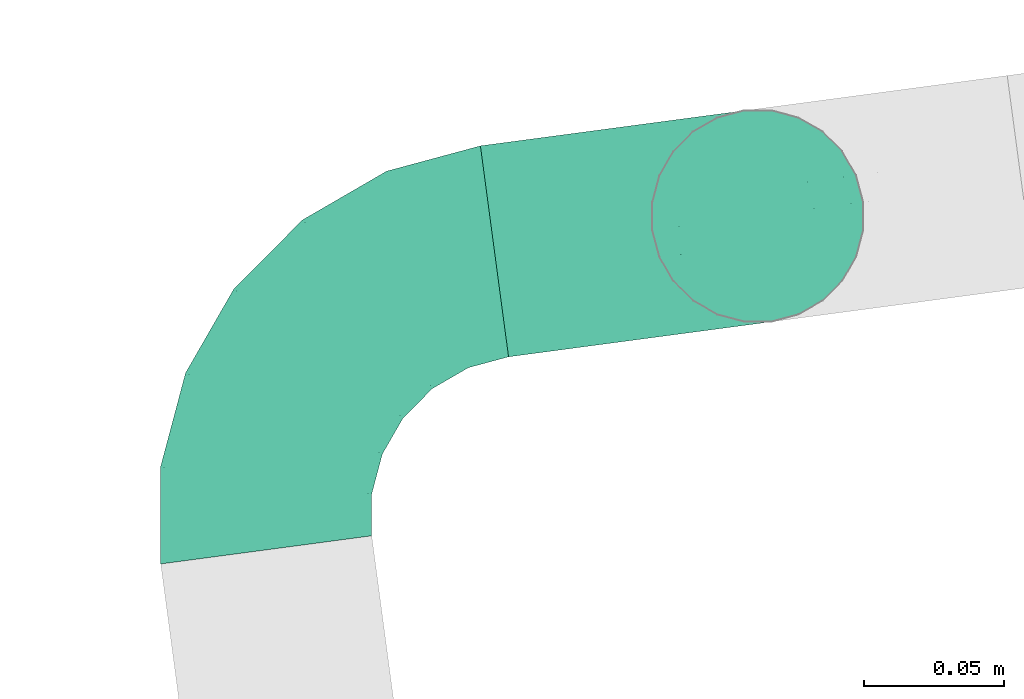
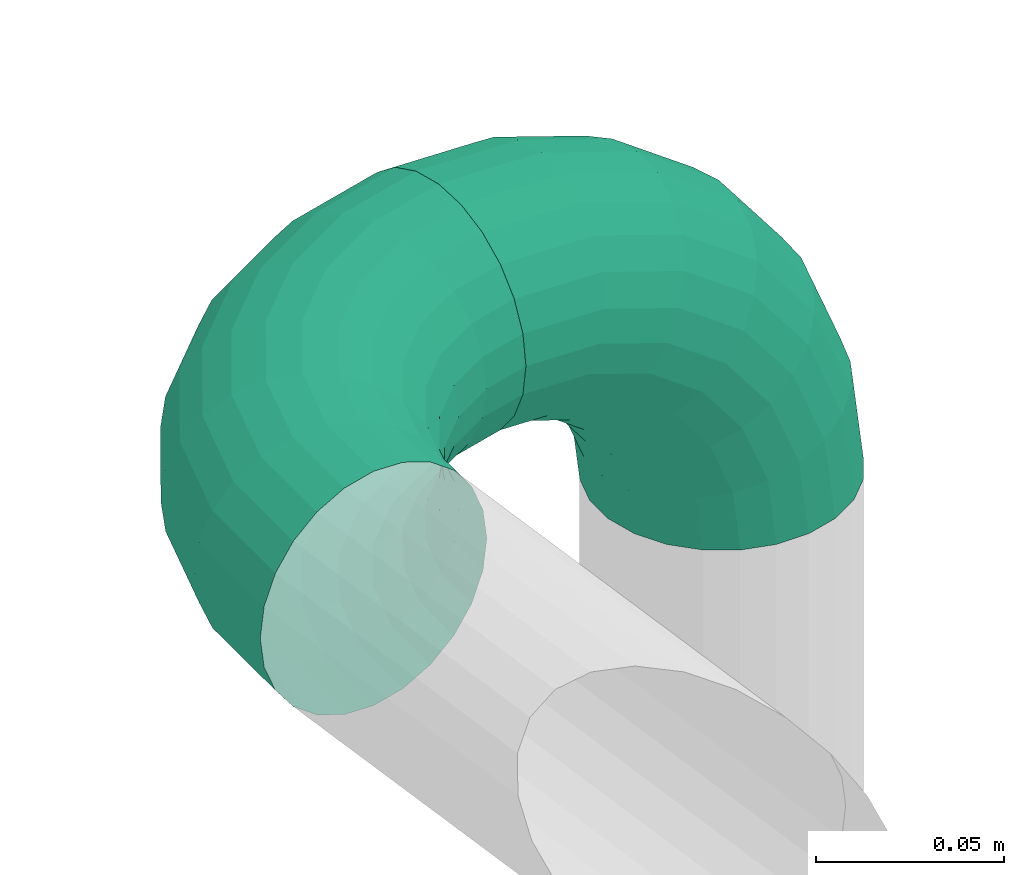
# One storey, part 336 of 374: 2 flow segments.
"""IFC2X3 building model written with IfcOpenShell, lengths in metres."""

from ifc_helpers import new_model, si_unit, direction, origin, place, context, subcontext, project, spatial, open_shell, surface_model, source, transform, mapped, element, save


model = new_model("IFC2X3")

# Units and contexts
model_context = context("Model", 3, precision=1e-05, world=origin(), true_north=direction((-0.4480736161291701, 0.8939966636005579)))
body_context = subcontext(model_context, "Body", "Model", "MODEL_VIEW")
ifc_project = project(units=[si_unit("LENGTHUNIT", "METRE"), si_unit("AREAUNIT", "SQUARE_METRE"), si_unit("VOLUMEUNIT", "CUBIC_METRE"), si_unit("PLANEANGLEUNIT", "RADIAN"), si_unit("THERMODYNAMICTEMPERATUREUNIT", "KELVIN"), si_unit("MASSUNIT", "GRAM", prefix="KILO"), si_unit("TIMEUNIT", "SECOND")], contexts=[model_context])

# Site, building, storey
site_placement = place(None, origin())
site = spatial("IfcSite", under=ifc_project, at=site_placement, Name="Site 1", CompositionType="ELEMENT")
building_placement = place(site_placement, origin())
building = spatial("IfcBuilding", under=site, at=building_placement, Name="Undefined", CompositionType="ELEMENT")
storey_placement = place(building_placement, origin())
storey = spatial("IfcBuildingStorey", under=building, at=storey_placement, Name="Rez de chauss\x8ee", CompositionType="ELEMENT", Elevation=0.0)

# Flow segments
shared_shape_1 = source(origin(), body_context, "Body", "SurfaceModel", [
    surface_model("IfcFaceBasedSurfaceModel", [(0.034733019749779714, -1.776356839e-15, 1.776356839e-15), (0.03456378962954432, 0.009931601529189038, 5.329070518e-15), (0.00016923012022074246, 0.009931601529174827, -1.33226763e-15), (0.0, 0.0, 0.0), (-0.033053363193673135, 0.011083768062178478, -0.008827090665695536), (-0.03354952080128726, 0.001163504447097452, -0.00891395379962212), (-0.06283992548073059, 0.0133095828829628, -0.025879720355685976), (-0.06362919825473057, 0.003411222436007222, -0.02613439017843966), (-0.08716055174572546, 0.01645736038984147, -0.04999578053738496), (-0.08818915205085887, 0.0065899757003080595, -0.05048776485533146), (-0.10435783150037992, 0.02031258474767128, -0.07953180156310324), (-0.10555566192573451, 0.010483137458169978, -0.08031443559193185), (-0.11325979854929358, 0.024612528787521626, -0.11247495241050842), (-0.11454522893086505, 0.01482539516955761, -0.11358176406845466), (0.034067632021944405, 0.01951912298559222, -0.0025492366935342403), (0.0006653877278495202, 0.0195191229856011, -0.002549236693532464), (-0.031598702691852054, 0.02063804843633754, -0.011121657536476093), (-0.06052589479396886, 0.022799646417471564, -0.027682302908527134), (-0.08414484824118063, 0.025856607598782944, -0.05110259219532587), (-0.10084597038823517, 0.029600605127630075, -0.07978647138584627), (-0.10949110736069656, 0.03377649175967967, -0.11177918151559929), (0.03327835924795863, 0.02810919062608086, -0.00747398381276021), (0.001454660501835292, 0.028109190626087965, -0.0074739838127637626), (-0.029284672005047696, 0.02917523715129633, -0.015641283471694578), (-0.05684480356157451, 0.031234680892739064, -0.03141929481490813), (-0.07934755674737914, 0.034147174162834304, -0.05373277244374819), (-0.09525940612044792, 0.03771423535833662, -0.08106108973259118), (-0.10349598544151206, 0.04169277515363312, -0.11154186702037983), (0.0322497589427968, 0.035116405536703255, -0.014438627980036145), (0.002483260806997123, 0.035116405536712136, -0.014438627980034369), (-0.02626896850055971, 0.036113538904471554, -0.02207796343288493), (-0.05204751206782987, 0.03803985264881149, -0.03683602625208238), (-0.07309560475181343, 0.040764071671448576, -0.05770707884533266), (-0.08797885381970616, 0.04410054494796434, -0.08326879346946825), (-0.0956829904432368, 0.04782189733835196, -0.11177918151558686), (0.031051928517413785, 0.04006323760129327, -0.0229685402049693), (0.0036810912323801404, 0.04006323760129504, -0.022968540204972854), (-0.022757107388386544, 0.04098011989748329, -0.029993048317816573), (-0.04646094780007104, 0.04275140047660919, -0.04356335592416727), (-0.06581505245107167, 0.045256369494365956, -0.06275466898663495), (-0.07950047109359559, 0.04832431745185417, -0.08625913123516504), (-0.08658456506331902, 0.05174616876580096, -0.1124749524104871), (0.02976649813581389, 0.042612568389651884, -0.03248242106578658), (0.004966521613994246, 0.042612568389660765, -0.03248242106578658), (-0.018988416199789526, 0.04344333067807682, -0.038847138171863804), (-0.040465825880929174, 0.04504824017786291, -0.05114282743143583), (-0.058002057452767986, 0.047317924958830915, -0.0685315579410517), (-0.0704020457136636, 0.05009770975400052, -0.08982831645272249), (-0.07682075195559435, 0.05319815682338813, -0.11358176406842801), (0.028481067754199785, 0.042590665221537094, -0.0423319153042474), (0.0062519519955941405, 0.042590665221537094, -0.04233191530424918), (-0.015219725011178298, 0.04333530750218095, -0.04803684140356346), (-0.03447070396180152, 0.04477384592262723, -0.05905791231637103), (-0.050189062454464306, 0.04680824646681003, -0.07464406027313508), (-0.061303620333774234, 0.049299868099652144, -0.09373311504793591), (-0.06705693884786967, 0.052078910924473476, -0.11502418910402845), (0.027283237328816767, 0.03999902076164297, -0.05184579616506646), (0.007449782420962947, 0.039999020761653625, -0.051845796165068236), (-0.011707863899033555, 0.04066341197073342, -0.05693589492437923), (-0.028884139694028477, 0.04194691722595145, -0.06676921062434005), (-0.042908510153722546, 0.043762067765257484, -0.08067561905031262), (-0.052825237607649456, 0.04598516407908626, -0.0977074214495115), (-0.0579585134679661, 0.048464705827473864, -0.1167039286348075), (0.026254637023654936, 0.03501425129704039, -0.06037570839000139), (0.008478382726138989, 0.035014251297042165, -0.06037570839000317), (-0.008692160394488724, 0.03560972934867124, -0.06493784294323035), (-0.024086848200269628, 0.0367601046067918, -0.07375121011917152), (-0.03665655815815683, 0.038386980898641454, -0.08621519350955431), (-0.045544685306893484, 0.040379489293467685, -0.10148039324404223), (-0.05014551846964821, 0.042601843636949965, -0.1185065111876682), (0.025465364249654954, 0.0279760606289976, -0.0673403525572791), (0.00926765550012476, 0.027976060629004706, -0.06734035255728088), (-0.00637812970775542, 0.028518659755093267, -0.07149736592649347), (-0.02040575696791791, 0.029566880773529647, -0.07952809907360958), (-0.03185926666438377, 0.031049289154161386, -0.09088527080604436), (-0.03995812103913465, 0.03286486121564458, -0.1047949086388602), (-0.04415039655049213, 0.03488986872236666, -0.12030909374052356), (0.02496920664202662, 0.019364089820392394, -0.07226509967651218), (0.009763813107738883, 0.019364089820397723, -0.07226509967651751), (-0.004923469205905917, 0.019873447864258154, -0.07616744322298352), (-0.018091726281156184, 0.020857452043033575, -0.0837061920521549), (-0.028843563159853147, 0.022249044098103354, -0.0943675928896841), (-0.03644625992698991, 0.023953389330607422, -0.10742508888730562), (-0.040381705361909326, 0.025854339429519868, -0.12198883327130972), (0.024799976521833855, 0.009765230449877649, -0.07481433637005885), (0.00993304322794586, 0.009765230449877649, -0.0748143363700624), (-0.004427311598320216, 0.010263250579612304, -0.07862981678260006), (-0.01730245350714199, 0.011225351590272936, -0.08600075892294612), (-0.027814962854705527, 0.012585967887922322, -0.0964248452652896), (-0.035248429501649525, 0.014252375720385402, -0.10919169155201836), (-0.039096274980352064, 0.01611101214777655, -0.12343125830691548), (0.02496920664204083, -0.000166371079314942, -0.0748143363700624), (0.009763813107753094, -0.00016637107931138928, -0.07481433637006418), (-0.004923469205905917, 0.0003429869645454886, -0.07871667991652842), (-0.018091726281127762, 0.0013269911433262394, -0.0862554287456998), (-0.028843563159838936, 0.0027185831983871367, -0.09691682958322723), (-0.03644625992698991, 0.004422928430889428, -0.10997432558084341), (-0.04038170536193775, 0.006323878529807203, -0.12453806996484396), (0.025465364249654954, -0.009753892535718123, -0.07226509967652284), (0.00926765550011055, -0.00975389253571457, -0.07226509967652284), (-0.00637812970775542, -0.009211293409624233, -0.0764221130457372), (-0.02040575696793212, -0.008163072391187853, -0.08445284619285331), (-0.03185926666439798, -0.006680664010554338, -0.09581001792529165), (-0.03995812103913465, -0.004865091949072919, -0.10971965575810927), (-0.044150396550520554, -0.0028400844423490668, -0.1252338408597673), (0.026254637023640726, -0.018343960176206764, -0.06734035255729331), (0.008478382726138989, -0.018343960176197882, -0.06734035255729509), (-0.008692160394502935, -0.017748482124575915, -0.0719024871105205), (-0.02408684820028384, -0.016598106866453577, -0.08071585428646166), (-0.03665655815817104, -0.01497123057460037, -0.09317983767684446), (-0.045544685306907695, -0.012978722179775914, -0.10844503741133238), (-0.05014551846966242, -0.01075636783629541, -0.1254711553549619), (0.027283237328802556, -0.02535117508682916, -0.06037570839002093), (0.007449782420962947, -0.025351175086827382, -0.06037570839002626), (-0.011707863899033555, -0.02468678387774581, -0.0654658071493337), (-0.028884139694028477, -0.023403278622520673, -0.07529912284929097), (-0.042908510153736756, -0.021588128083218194, -0.08920553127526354), (-0.052825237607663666, -0.019365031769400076, -0.10623733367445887), (-0.05795851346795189, -0.01688549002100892, -0.12523384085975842), (0.028481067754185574, -0.030298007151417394, -0.051845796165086), (0.0062519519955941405, -0.030298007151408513, -0.051845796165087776), (-0.015219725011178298, -0.0295533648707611, -0.05755072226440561), (-0.03447070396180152, -0.02811482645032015, -0.06857179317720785), (-0.05018906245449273, -0.026080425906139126, -0.08415794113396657), (-0.061303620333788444, -0.023588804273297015, -0.10324699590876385), (-0.06705693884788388, -0.020809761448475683, -0.12453806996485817), (0.02976649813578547, -0.03284733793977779, -0.042331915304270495), (0.004966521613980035, -0.03284733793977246, -0.04233191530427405), (-0.018988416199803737, -0.03201657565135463, -0.04869663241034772), (-0.040465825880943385, -0.030411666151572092, -0.06099232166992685), (-0.058002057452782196, -0.02814198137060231, -0.07838105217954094), (-0.07040204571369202, -0.025362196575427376, -0.09967781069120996), (-0.07682075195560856, -0.02226174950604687, -0.12343125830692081), (0.031051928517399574, -0.03282543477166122, -0.0324824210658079), (0.0036810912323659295, -0.03282543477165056, -0.03248242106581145), (-0.022757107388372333, -0.03190855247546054, -0.03950692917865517), (-0.04646094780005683, -0.030137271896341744, -0.05307723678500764), (-0.06581505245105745, -0.027632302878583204, -0.07226854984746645), (-0.07950047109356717, -0.024564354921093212, -0.09577301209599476), (-0.08658456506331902, -0.021142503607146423, -0.12198883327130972), (0.03224975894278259, -0.03023379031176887, -0.022968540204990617), (0.002483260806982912, -0.03023379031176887, -0.022968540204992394), (-0.026268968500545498, -0.02923665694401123, -0.03060787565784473), (-0.05204751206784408, -0.02731034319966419, -0.04536593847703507), (-0.07309560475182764, -0.02458612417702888, -0.06623699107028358), (-0.08797885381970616, -0.021249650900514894, -0.09179870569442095), (-0.09568299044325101, -0.017528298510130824, -0.12030909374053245), (0.03327835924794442, -0.025249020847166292, -0.014438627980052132), (0.0014546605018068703, -0.02524902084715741, -0.014438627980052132), (-0.02928467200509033, -0.024182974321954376, -0.022605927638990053), (-0.05684480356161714, -0.022123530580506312, -0.03838393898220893), (-0.07934755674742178, -0.019211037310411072, -0.060697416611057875), (-0.09525940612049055, -0.015643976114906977, -0.08802573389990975), (-0.1034959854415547, -0.011665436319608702, -0.11850651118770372), (0.034067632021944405, -0.018210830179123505, -0.007473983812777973), (0.0006653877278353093, -0.018210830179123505, -0.007473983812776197), (-0.031598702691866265, -0.017091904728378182, -0.01604640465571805), (-0.06052589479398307, -0.014930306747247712, -0.03260705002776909), (-0.08414484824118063, -0.011873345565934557, -0.05602733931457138), (-0.10084597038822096, -0.008129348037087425, -0.08471121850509), (-0.10949110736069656, -0.003953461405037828, -0.11670392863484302), (0.03456378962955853, -0.009598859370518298, -0.0025492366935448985), (0.00016923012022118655, -0.009598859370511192, -0.002549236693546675), (-0.033053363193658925, -0.00844669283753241, -0.011376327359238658), (-0.06283992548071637, -0.0062208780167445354, -0.028428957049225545), (-0.08716055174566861, -0.003073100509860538, -0.05254501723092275), (-0.1043578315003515, 0.0007821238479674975, -0.08208103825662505), (-0.11325979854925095, 0.005082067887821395, -0.11502418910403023)], [open_shell([[[0, 1, 2, 3]], [[3, 2, 4, 5]], [[5, 4, 6, 7]], [[7, 6, 8, 9]], [[9, 8, 10, 11]], [[11, 10, 12, 13]], [[1, 14, 15, 2]], [[2, 15, 16, 4]], [[4, 16, 17, 6]], [[6, 17, 18, 8]], [[8, 18, 19, 10]], [[10, 19, 20, 12]], [[14, 21, 22, 15]], [[15, 22, 23, 16]], [[16, 23, 24, 17]], [[17, 24, 25, 18]], [[18, 25, 26, 19]], [[19, 26, 27, 20]], [[21, 28, 29, 22]], [[22, 29, 30, 23]], [[23, 30, 31, 24]], [[24, 31, 32, 25]], [[25, 32, 33, 26]], [[26, 33, 34, 27]], [[28, 35, 36, 29]], [[29, 36, 37, 30]], [[30, 37, 38, 31]], [[31, 38, 39, 32]], [[32, 39, 40, 33]], [[33, 40, 41, 34]], [[35, 42, 43, 36]], [[36, 43, 44, 37]], [[37, 44, 45, 38]], [[38, 45, 46, 39]], [[39, 46, 47, 40]], [[40, 47, 48, 41]], [[42, 49, 50, 43]], [[43, 50, 51, 44]], [[44, 51, 52, 45]], [[45, 52, 53, 46]], [[46, 53, 54, 47]], [[47, 54, 55, 48]], [[49, 56, 57, 50]], [[50, 57, 58, 51]], [[51, 58, 59, 52]], [[52, 59, 60, 53]], [[53, 60, 61, 54]], [[54, 61, 62, 55]], [[56, 63, 64, 57]], [[57, 64, 65, 58]], [[58, 65, 66, 59]], [[59, 66, 67, 60]], [[60, 67, 68, 61]], [[61, 68, 69, 62]], [[63, 70, 71, 64]], [[64, 71, 72, 65]], [[65, 72, 73, 66]], [[66, 73, 74, 67]], [[67, 74, 75, 68]], [[68, 75, 76, 69]], [[70, 77, 78, 71]], [[71, 78, 79, 72]], [[72, 79, 80, 73]], [[73, 80, 81, 74]], [[74, 81, 82, 75]], [[75, 82, 83, 76]], [[77, 84, 85, 78]], [[78, 85, 86, 79]], [[79, 86, 87, 80]], [[80, 87, 88, 81]], [[81, 88, 89, 82]], [[82, 89, 90, 83]], [[84, 91, 92, 85]], [[85, 92, 93, 86]], [[86, 93, 94, 87]], [[87, 94, 95, 88]], [[88, 95, 96, 89]], [[89, 96, 97, 90]], [[91, 98, 99, 92]], [[92, 99, 100, 93]], [[93, 100, 101, 94]], [[94, 101, 102, 95]], [[95, 102, 103, 96]], [[96, 103, 104, 97]], [[98, 105, 106, 99]], [[99, 106, 107, 100]], [[100, 107, 108, 101]], [[101, 108, 109, 102]], [[102, 109, 110, 103]], [[103, 110, 111, 104]], [[105, 112, 113, 106]], [[106, 113, 114, 107]], [[107, 114, 115, 108]], [[108, 115, 116, 109]], [[109, 116, 117, 110]], [[110, 117, 118, 111]], [[112, 119, 120, 113]], [[113, 120, 121, 114]], [[114, 121, 122, 115]], [[115, 122, 123, 116]], [[116, 123, 124, 117]], [[117, 124, 125, 118]], [[119, 126, 127, 120]], [[120, 127, 128, 121]], [[121, 128, 129, 122]], [[122, 129, 130, 123]], [[123, 130, 131, 124]], [[124, 131, 132, 125]], [[126, 133, 134, 127]], [[127, 134, 135, 128]], [[128, 135, 136, 129]], [[129, 136, 137, 130]], [[130, 137, 138, 131]], [[131, 138, 139, 132]], [[133, 140, 141, 134]], [[134, 141, 142, 135]], [[135, 142, 143, 136]], [[136, 143, 144, 137]], [[137, 144, 145, 138]], [[138, 145, 146, 139]], [[140, 147, 148, 141]], [[141, 148, 149, 142]], [[142, 149, 150, 143]], [[143, 150, 151, 144]], [[144, 151, 152, 145]], [[145, 152, 153, 146]], [[147, 154, 155, 148]], [[148, 155, 156, 149]], [[149, 156, 157, 150]], [[150, 157, 158, 151]], [[151, 158, 159, 152]], [[152, 159, 160, 153]], [[154, 161, 162, 155]], [[155, 162, 163, 156]], [[156, 163, 164, 157]], [[157, 164, 165, 158]], [[158, 165, 166, 159]], [[159, 166, 167, 160]], [[161, 0, 3, 162]], [[162, 3, 5, 163]], [[163, 5, 7, 164]], [[164, 7, 9, 165]], [[165, 9, 11, 166]], [[166, 11, 13, 167]]])]),
])
flow_segment_1_placement = place(storey_placement, origin())
element("IfcFlowSegment", 1, at=flow_segment_1_placement, inside=storey, Name="Tube coudé", ObjectType="Tube coudé", context=body_context, shape_type="MappedRepresentation", body=[
    mapped(shared_shape_1, transform((67.43351198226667, 22.034542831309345, 2.2089988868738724), x_axis=(0.001745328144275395, -0.9999984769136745, 0.0), y_axis=(0.12942811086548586, 0.00022589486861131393, 0.9915887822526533), z_axis=(-0.9915872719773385, -0.001730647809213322, 0.1294283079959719))),
])
shared_shape_2 = source(origin(), body_context, "Body", "SurfaceModel", [
    surface_model("IfcFaceBasedSurfaceModel", [(0.034733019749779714, -1.776356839e-15, 1.776356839e-15), (0.03456378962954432, 0.009931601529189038, 5.329070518e-15), (0.00016923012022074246, 0.009931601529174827, -1.33226763e-15), (0.0, 0.0, 0.0), (-0.033053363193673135, 0.011083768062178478, -0.008827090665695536), (-0.03354952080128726, 0.001163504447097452, -0.00891395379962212), (-0.06283992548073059, 0.0133095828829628, -0.025879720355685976), (-0.06362919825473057, 0.003411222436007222, -0.02613439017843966), (-0.08716055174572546, 0.01645736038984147, -0.04999578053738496), (-0.08818915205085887, 0.0065899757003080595, -0.05048776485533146), (-0.10435783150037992, 0.02031258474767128, -0.07953180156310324), (-0.10555566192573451, 0.010483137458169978, -0.08031443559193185), (-0.11325979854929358, 0.024612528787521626, -0.11247495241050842), (-0.11454522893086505, 0.01482539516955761, -0.11358176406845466), (0.034067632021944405, 0.01951912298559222, -0.0025492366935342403), (0.0006653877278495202, 0.0195191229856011, -0.002549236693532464), (-0.031598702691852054, 0.02063804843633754, -0.011121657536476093), (-0.06052589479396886, 0.022799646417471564, -0.027682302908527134), (-0.08414484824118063, 0.025856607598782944, -0.05110259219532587), (-0.10084597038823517, 0.029600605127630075, -0.07978647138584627), (-0.10949110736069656, 0.03377649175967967, -0.11177918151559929), (0.03327835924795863, 0.02810919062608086, -0.00747398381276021), (0.001454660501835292, 0.028109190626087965, -0.0074739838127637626), (-0.029284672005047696, 0.02917523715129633, -0.015641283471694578), (-0.05684480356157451, 0.031234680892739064, -0.03141929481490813), (-0.07934755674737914, 0.034147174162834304, -0.05373277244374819), (-0.09525940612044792, 0.03771423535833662, -0.08106108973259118), (-0.10349598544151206, 0.04169277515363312, -0.11154186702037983), (0.0322497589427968, 0.035116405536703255, -0.014438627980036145), (0.002483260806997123, 0.035116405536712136, -0.014438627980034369), (-0.02626896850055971, 0.036113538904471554, -0.02207796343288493), (-0.05204751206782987, 0.03803985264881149, -0.03683602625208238), (-0.07309560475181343, 0.040764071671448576, -0.05770707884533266), (-0.08797885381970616, 0.04410054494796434, -0.08326879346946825), (-0.0956829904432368, 0.04782189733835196, -0.11177918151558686), (0.031051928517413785, 0.04006323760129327, -0.0229685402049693), (0.0036810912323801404, 0.04006323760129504, -0.022968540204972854), (-0.022757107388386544, 0.04098011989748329, -0.029993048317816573), (-0.04646094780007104, 0.04275140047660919, -0.04356335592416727), (-0.06581505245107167, 0.045256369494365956, -0.06275466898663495), (-0.07950047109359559, 0.04832431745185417, -0.08625913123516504), (-0.08658456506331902, 0.05174616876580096, -0.1124749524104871), (0.02976649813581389, 0.042612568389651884, -0.03248242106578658), (0.004966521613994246, 0.042612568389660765, -0.03248242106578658), (-0.018988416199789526, 0.04344333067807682, -0.038847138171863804), (-0.040465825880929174, 0.04504824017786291, -0.05114282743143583), (-0.058002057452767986, 0.047317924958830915, -0.0685315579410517), (-0.0704020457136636, 0.05009770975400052, -0.08982831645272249), (-0.07682075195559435, 0.05319815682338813, -0.11358176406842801), (0.028481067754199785, 0.042590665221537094, -0.0423319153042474), (0.0062519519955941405, 0.042590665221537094, -0.04233191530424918), (-0.015219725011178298, 0.04333530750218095, -0.04803684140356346), (-0.03447070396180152, 0.04477384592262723, -0.05905791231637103), (-0.050189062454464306, 0.04680824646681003, -0.07464406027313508), (-0.061303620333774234, 0.049299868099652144, -0.09373311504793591), (-0.06705693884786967, 0.052078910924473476, -0.11502418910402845), (0.027283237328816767, 0.03999902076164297, -0.05184579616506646), (0.007449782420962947, 0.039999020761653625, -0.051845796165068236), (-0.011707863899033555, 0.04066341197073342, -0.05693589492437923), (-0.028884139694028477, 0.04194691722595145, -0.06676921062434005), (-0.042908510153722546, 0.043762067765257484, -0.08067561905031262), (-0.052825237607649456, 0.04598516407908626, -0.0977074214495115), (-0.0579585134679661, 0.048464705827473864, -0.1167039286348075), (0.026254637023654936, 0.03501425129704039, -0.06037570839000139), (0.008478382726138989, 0.035014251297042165, -0.06037570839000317), (-0.008692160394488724, 0.03560972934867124, -0.06493784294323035), (-0.024086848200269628, 0.0367601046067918, -0.07375121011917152), (-0.03665655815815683, 0.038386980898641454, -0.08621519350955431), (-0.045544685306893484, 0.040379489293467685, -0.10148039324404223), (-0.05014551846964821, 0.042601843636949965, -0.1185065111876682), (0.025465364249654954, 0.0279760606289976, -0.0673403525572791), (0.00926765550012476, 0.027976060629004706, -0.06734035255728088), (-0.00637812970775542, 0.028518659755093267, -0.07149736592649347), (-0.02040575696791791, 0.029566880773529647, -0.07952809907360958), (-0.03185926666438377, 0.031049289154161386, -0.09088527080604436), (-0.03995812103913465, 0.03286486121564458, -0.1047949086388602), (-0.04415039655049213, 0.03488986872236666, -0.12030909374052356), (0.02496920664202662, 0.019364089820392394, -0.07226509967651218), (0.009763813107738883, 0.019364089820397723, -0.07226509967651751), (-0.004923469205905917, 0.019873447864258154, -0.07616744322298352), (-0.018091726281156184, 0.020857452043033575, -0.0837061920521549), (-0.028843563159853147, 0.022249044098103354, -0.0943675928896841), (-0.03644625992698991, 0.023953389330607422, -0.10742508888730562), (-0.040381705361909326, 0.025854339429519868, -0.12198883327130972), (0.024799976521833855, 0.009765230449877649, -0.07481433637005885), (0.00993304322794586, 0.009765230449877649, -0.0748143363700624), (-0.004427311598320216, 0.010263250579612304, -0.07862981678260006), (-0.01730245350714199, 0.011225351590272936, -0.08600075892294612), (-0.027814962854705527, 0.012585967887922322, -0.0964248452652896), (-0.035248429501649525, 0.014252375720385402, -0.10919169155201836), (-0.039096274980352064, 0.01611101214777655, -0.12343125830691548), (0.02496920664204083, -0.00016637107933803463, -0.0748143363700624), (0.009763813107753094, -0.00016637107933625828, -0.07481433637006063), (-0.004923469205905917, 0.0003429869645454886, -0.07871667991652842), (-0.018091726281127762, 0.0013269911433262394, -0.0862554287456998), (-0.028843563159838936, 0.0027185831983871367, -0.09691682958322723), (-0.03644625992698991, 0.004422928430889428, -0.10997432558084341), (-0.04038170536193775, 0.006323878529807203, -0.12453806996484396), (0.025465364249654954, -0.009753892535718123, -0.07226509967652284), (0.00926765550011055, -0.00975389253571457, -0.07226509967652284), (-0.00637812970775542, -0.009211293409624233, -0.0764221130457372), (-0.02040575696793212, -0.008163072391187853, -0.08445284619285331), (-0.03185926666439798, -0.006680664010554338, -0.09581001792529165), (-0.03995812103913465, -0.004865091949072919, -0.10971965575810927), (-0.044150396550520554, -0.0028400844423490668, -0.1252338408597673), (0.026254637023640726, -0.018343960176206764, -0.06734035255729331), (0.008478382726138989, -0.018343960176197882, -0.06734035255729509), (-0.008692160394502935, -0.017748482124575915, -0.0719024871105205), (-0.02408684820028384, -0.016598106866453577, -0.08071585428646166), (-0.03665655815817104, -0.01497123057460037, -0.09317983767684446), (-0.045544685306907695, -0.012978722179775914, -0.10844503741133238), (-0.05014551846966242, -0.01075636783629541, -0.1254711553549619), (0.027283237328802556, -0.02535117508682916, -0.06037570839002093), (0.007449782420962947, -0.025351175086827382, -0.06037570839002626), (-0.011707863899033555, -0.02468678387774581, -0.0654658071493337), (-0.028884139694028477, -0.023403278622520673, -0.07529912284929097), (-0.042908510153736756, -0.021588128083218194, -0.08920553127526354), (-0.052825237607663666, -0.019365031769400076, -0.10623733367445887), (-0.05795851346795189, -0.01688549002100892, -0.12523384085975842), (0.028481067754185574, -0.030298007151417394, -0.051845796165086), (0.0062519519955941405, -0.030298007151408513, -0.051845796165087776), (-0.015219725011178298, -0.0295533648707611, -0.05755072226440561), (-0.03447070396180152, -0.02811482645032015, -0.06857179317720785), (-0.05018906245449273, -0.026080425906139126, -0.08415794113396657), (-0.061303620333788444, -0.023588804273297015, -0.10324699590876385), (-0.06705693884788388, -0.020809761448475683, -0.12453806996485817), (0.02976649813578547, -0.03284733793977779, -0.042331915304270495), (0.004966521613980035, -0.03284733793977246, -0.04233191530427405), (-0.018988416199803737, -0.03201657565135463, -0.04869663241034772), (-0.040465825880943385, -0.030411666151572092, -0.06099232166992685), (-0.058002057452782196, -0.02814198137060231, -0.07838105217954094), (-0.07040204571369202, -0.025362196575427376, -0.09967781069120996), (-0.07682075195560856, -0.02226174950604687, -0.12343125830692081), (0.031051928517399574, -0.03282543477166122, -0.0324824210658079), (0.0036810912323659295, -0.03282543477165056, -0.03248242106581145), (-0.022757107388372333, -0.03190855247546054, -0.03950692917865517), (-0.04646094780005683, -0.030137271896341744, -0.05307723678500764), (-0.06581505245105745, -0.027632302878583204, -0.07226854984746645), (-0.07950047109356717, -0.024564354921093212, -0.09577301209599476), (-0.08658456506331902, -0.021142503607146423, -0.12198883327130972), (0.03224975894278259, -0.03023379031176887, -0.022968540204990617), (0.002483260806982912, -0.03023379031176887, -0.022968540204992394), (-0.026268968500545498, -0.02923665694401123, -0.03060787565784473), (-0.05204751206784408, -0.02731034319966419, -0.04536593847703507), (-0.07309560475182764, -0.02458612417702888, -0.06623699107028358), (-0.08797885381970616, -0.021249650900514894, -0.09179870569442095), (-0.09568299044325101, -0.017528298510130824, -0.12030909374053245), (0.03327835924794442, -0.025249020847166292, -0.014438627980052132), (0.0014546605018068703, -0.02524902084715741, -0.014438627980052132), (-0.02928467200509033, -0.024182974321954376, -0.022605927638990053), (-0.05684480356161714, -0.022123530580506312, -0.03838393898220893), (-0.07934755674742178, -0.019211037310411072, -0.060697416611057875), (-0.09525940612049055, -0.015643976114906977, -0.08802573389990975), (-0.1034959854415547, -0.011665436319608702, -0.11850651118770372), (0.034067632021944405, -0.018210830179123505, -0.007473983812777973), (0.0006653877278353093, -0.018210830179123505, -0.007473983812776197), (-0.031598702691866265, -0.017091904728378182, -0.01604640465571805), (-0.06052589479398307, -0.014930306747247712, -0.03260705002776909), (-0.08414484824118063, -0.011873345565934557, -0.05602733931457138), (-0.10084597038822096, -0.008129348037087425, -0.08471121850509), (-0.10949110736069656, -0.003953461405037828, -0.11670392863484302), (0.03456378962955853, -0.009598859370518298, -0.0025492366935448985), (0.00016923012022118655, -0.009598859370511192, -0.002549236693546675), (-0.033053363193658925, -0.00844669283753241, -0.011376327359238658), (-0.06283992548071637, -0.0062208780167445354, -0.028428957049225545), (-0.08716055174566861, -0.003073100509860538, -0.05254501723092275), (-0.1043578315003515, 0.0007821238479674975, -0.08208103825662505), (-0.11325979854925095, 0.005082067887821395, -0.11502418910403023)], [open_shell([[[0, 1, 2, 3]], [[3, 2, 4, 5]], [[5, 4, 6, 7]], [[7, 6, 8, 9]], [[9, 8, 10, 11]], [[11, 10, 12, 13]], [[1, 14, 15, 2]], [[2, 15, 16, 4]], [[4, 16, 17, 6]], [[6, 17, 18, 8]], [[8, 18, 19, 10]], [[10, 19, 20, 12]], [[14, 21, 22, 15]], [[15, 22, 23, 16]], [[16, 23, 24, 17]], [[17, 24, 25, 18]], [[18, 25, 26, 19]], [[19, 26, 27, 20]], [[21, 28, 29, 22]], [[22, 29, 30, 23]], [[23, 30, 31, 24]], [[24, 31, 32, 25]], [[25, 32, 33, 26]], [[26, 33, 34, 27]], [[28, 35, 36, 29]], [[29, 36, 37, 30]], [[30, 37, 38, 31]], [[31, 38, 39, 32]], [[32, 39, 40, 33]], [[33, 40, 41, 34]], [[35, 42, 43, 36]], [[36, 43, 44, 37]], [[37, 44, 45, 38]], [[38, 45, 46, 39]], [[39, 46, 47, 40]], [[40, 47, 48, 41]], [[42, 49, 50, 43]], [[43, 50, 51, 44]], [[44, 51, 52, 45]], [[45, 52, 53, 46]], [[46, 53, 54, 47]], [[47, 54, 55, 48]], [[49, 56, 57, 50]], [[50, 57, 58, 51]], [[51, 58, 59, 52]], [[52, 59, 60, 53]], [[53, 60, 61, 54]], [[54, 61, 62, 55]], [[56, 63, 64, 57]], [[57, 64, 65, 58]], [[58, 65, 66, 59]], [[59, 66, 67, 60]], [[60, 67, 68, 61]], [[61, 68, 69, 62]], [[63, 70, 71, 64]], [[64, 71, 72, 65]], [[65, 72, 73, 66]], [[66, 73, 74, 67]], [[67, 74, 75, 68]], [[68, 75, 76, 69]], [[70, 77, 78, 71]], [[71, 78, 79, 72]], [[72, 79, 80, 73]], [[73, 80, 81, 74]], [[74, 81, 82, 75]], [[75, 82, 83, 76]], [[77, 84, 85, 78]], [[78, 85, 86, 79]], [[79, 86, 87, 80]], [[80, 87, 88, 81]], [[81, 88, 89, 82]], [[82, 89, 90, 83]], [[84, 91, 92, 85]], [[85, 92, 93, 86]], [[86, 93, 94, 87]], [[87, 94, 95, 88]], [[88, 95, 96, 89]], [[89, 96, 97, 90]], [[91, 98, 99, 92]], [[92, 99, 100, 93]], [[93, 100, 101, 94]], [[94, 101, 102, 95]], [[95, 102, 103, 96]], [[96, 103, 104, 97]], [[98, 105, 106, 99]], [[99, 106, 107, 100]], [[100, 107, 108, 101]], [[101, 108, 109, 102]], [[102, 109, 110, 103]], [[103, 110, 111, 104]], [[105, 112, 113, 106]], [[106, 113, 114, 107]], [[107, 114, 115, 108]], [[108, 115, 116, 109]], [[109, 116, 117, 110]], [[110, 117, 118, 111]], [[112, 119, 120, 113]], [[113, 120, 121, 114]], [[114, 121, 122, 115]], [[115, 122, 123, 116]], [[116, 123, 124, 117]], [[117, 124, 125, 118]], [[119, 126, 127, 120]], [[120, 127, 128, 121]], [[121, 128, 129, 122]], [[122, 129, 130, 123]], [[123, 130, 131, 124]], [[124, 131, 132, 125]], [[126, 133, 134, 127]], [[127, 134, 135, 128]], [[128, 135, 136, 129]], [[129, 136, 137, 130]], [[130, 137, 138, 131]], [[131, 138, 139, 132]], [[133, 140, 141, 134]], [[134, 141, 142, 135]], [[135, 142, 143, 136]], [[136, 143, 144, 137]], [[137, 144, 145, 138]], [[138, 145, 146, 139]], [[140, 147, 148, 141]], [[141, 148, 149, 142]], [[142, 149, 150, 143]], [[143, 150, 151, 144]], [[144, 151, 152, 145]], [[145, 152, 153, 146]], [[147, 154, 155, 148]], [[148, 155, 156, 149]], [[149, 156, 157, 150]], [[150, 157, 158, 151]], [[151, 158, 159, 152]], [[152, 159, 160, 153]], [[154, 161, 162, 155]], [[155, 162, 163, 156]], [[156, 163, 164, 157]], [[157, 164, 165, 158]], [[158, 165, 166, 159]], [[159, 166, 167, 160]], [[161, 0, 3, 162]], [[162, 3, 5, 163]], [[163, 5, 7, 164]], [[164, 7, 9, 165]], [[165, 9, 11, 166]], [[166, 11, 13, 167]]])]),
])
flow_segment_2_placement = place(storey_placement, origin())
element("IfcFlowSegment", 2, at=flow_segment_2_placement, inside=storey, Name="Tube coudé", ObjectType="Tube coudé", context=body_context, shape_type="MappedRepresentation", body=[
    mapped(shared_shape_2, transform((67.5870228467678, 22.116126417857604, 2.2425153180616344), x_axis=(-0.9827355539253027, -0.1311249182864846, 0.13052619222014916), y_axis=(0.11439857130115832, -0.9851125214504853, -0.12832103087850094), z_axis=(0.1454090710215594, -0.11117362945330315, 0.9831056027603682))),
])

save(model, "model.ifc")
